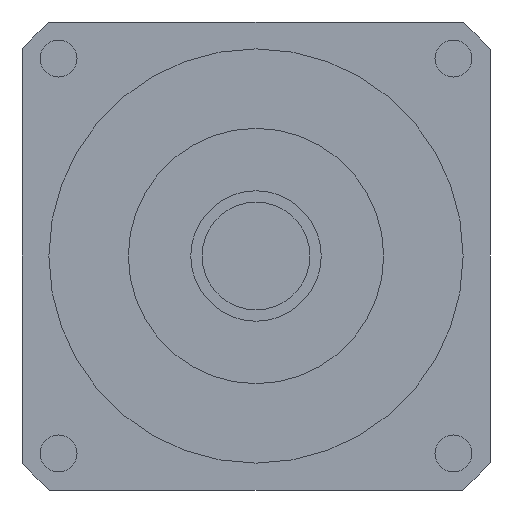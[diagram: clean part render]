
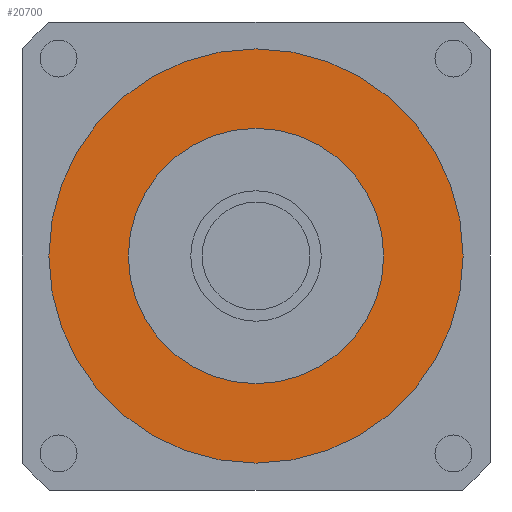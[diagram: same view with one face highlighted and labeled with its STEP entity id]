
A CAD part, left-side view. The second image highlights one B-rep face of the part: STEP entity #20700.
In plain terms, the highlighted planar face has unit normal (-1, 0, 0) as drawn and (0, 0, -1) by its records, which use the part's own axes.
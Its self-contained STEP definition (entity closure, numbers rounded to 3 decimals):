
#20160=CARTESIAN_POINT('',(36.51,0.,-39.));
#20170=VERTEX_POINT('',#20160);
#20260=CARTESIAN_POINT('',(-36.51,0.,-39.));
#20270=VERTEX_POINT('',#20260);
#20300=CARTESIAN_POINT('',(0.,0.,
-39.));
#20310=DIRECTION('',(0.,0.,1.));
#20320=DIRECTION('',(0.,1.,0.));
#20330=AXIS2_PLACEMENT_3D('',#20300,#20310,#20320);
#20340=CIRCLE('',#20330,36.51);
#20350=CARTESIAN_POINT('',(0.,36.51,-39.));
#20360=VERTEX_POINT('',#20350);
#20370=EDGE_CURVE('',#20360,#20270,#20340,.T.);
#20390=EDGE_CURVE('',#20170,#20360,#20340,.T.);
#20440=CARTESIAN_POINT('',(0.,0.,
-39.));
#20450=DIRECTION('',(0.,0.,1.));
#20460=DIRECTION('',(-1.,0.,0.));
#20470=AXIS2_PLACEMENT_3D('',#20440,#20450,#20460);
#20480=PLANE('',#20470);
#20490=CARTESIAN_POINT('',(0.,0.,
-39.));
#20500=DIRECTION('',(0.,0.,1.));
#20510=DIRECTION('',(1.,0.,0.));
#20520=AXIS2_PLACEMENT_3D('',#20490,#20500,#20510);
#20530=CIRCLE('',#20520,22.5);
#20540=CARTESIAN_POINT('',(22.5,0.,-39.));
#20550=VERTEX_POINT('',#20540);
#20560=CARTESIAN_POINT('',(-22.5,0.,-39.));
#20570=VERTEX_POINT('',#20560);
#20580=EDGE_CURVE('',#20550,#20570,#20530,.T.);
#20590=ORIENTED_EDGE('',*,*,#20580,.T.);
#20600=EDGE_CURVE('',#20570,#20550,#20530,.T.);
#20610=ORIENTED_EDGE('',*,*,#20600,.T.);
#20620=EDGE_LOOP('',(#20610,#20590));
#20630=FACE_BOUND('',#20620,.T.);
#20640=ORIENTED_EDGE('',*,*,#20370,.F.);
#20650=EDGE_CURVE('',#20270,#20170,#20340,.T.);
#20660=ORIENTED_EDGE('',*,*,#20650,.F.);
#20670=ORIENTED_EDGE('',*,*,#20390,.F.);
#20680=EDGE_LOOP('',(#20670,#20660,#20640));
#20690=FACE_OUTER_BOUND('',#20680,.T.);
#20700=ADVANCED_FACE('',(#20630,#20690),#20480,.F.);
